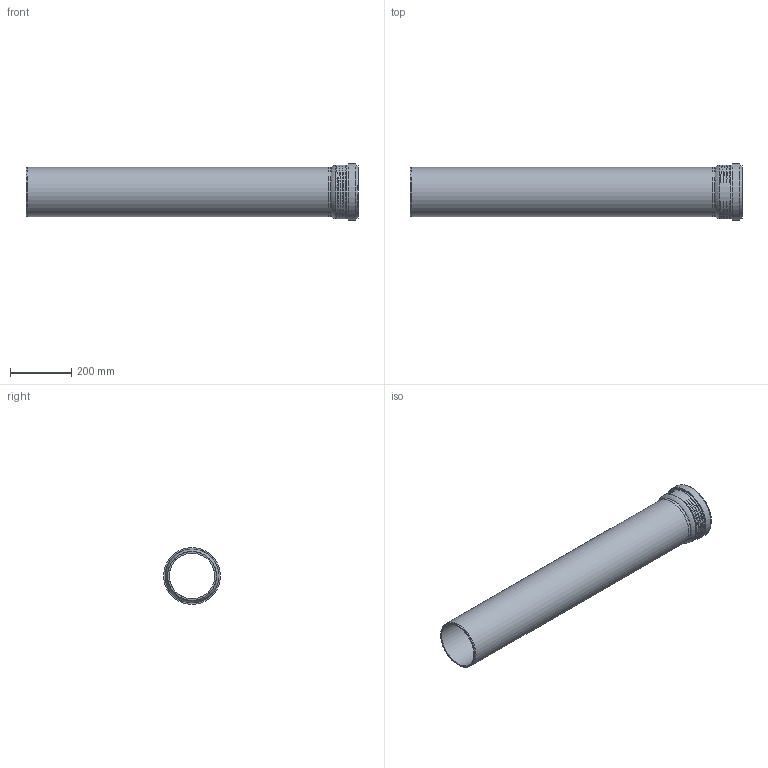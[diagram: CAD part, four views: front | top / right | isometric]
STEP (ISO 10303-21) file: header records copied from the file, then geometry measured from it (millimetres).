
FILE_DESCRIPTION(/* description */ (''),/* implementation_level */ '2;1');
FILE_NAME(/* name */ 'H:\Geberit-Teile\Export\PP_Rohr\stp\393704.stp',/* time_stamp */ '2017-02-13T16:10:41+01:00',/* author */ ('seihe2'),/* organization */ (''),/* preprocessor_version */ 'ST-DEVELOPER v15.2',/* originating_system */ 'Autodesk Inventor 2014',/* authorisation */ '');
FILE_SCHEMA (('AUTOMOTIVE_DESIGN { 1 0 10303 214 3 1 1 }'));
Length unit declared in the file: millimetre
Products named in the file (1): 393704
Bounding box: 1080.6 x 184.86 x 184.86 mm (x, y, z)
Volume: 3219664.7 mm3; surface area: 1094227.7 mm2
Topology: 2 solids, 2 shells, 38 faces, 79 edges, 54 vertices
Faces by surface type: torus 18, cylinder 10, plane 8, cone 2
Full cylindrical faces by diameter (mm): 148.25 x2, 160.25 x2, 161.4 x1, 164.8 x1, 172.2 x1, 174.6 x1, 175.6 x1, 184.86 x1
Entity records: 2318 total; most frequent: CARTESIAN_POINT 1552, DIRECTION 128, ORIENTED_EDGE 118, EDGE_LOOP 70, AXIS2_PLACEMENT_3D 64, EDGE_CURVE 59, VERTEX_POINT 53, STYLED_ITEM 40
